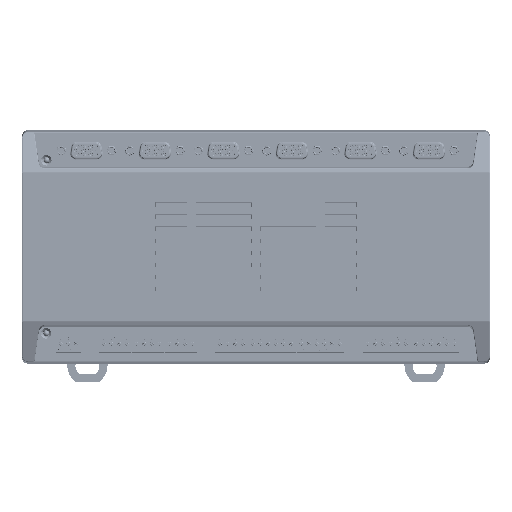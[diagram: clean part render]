
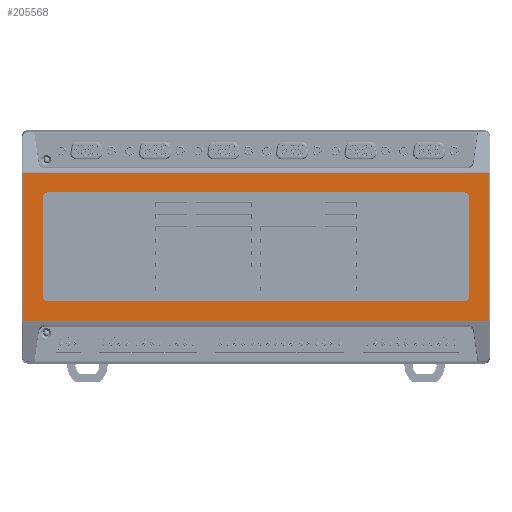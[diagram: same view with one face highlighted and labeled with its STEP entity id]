
A CAD part, top view. The second image highlights one B-rep face of the part: STEP entity #205568.
In plain terms, the highlighted planar face has unit normal (0, 0, 1).
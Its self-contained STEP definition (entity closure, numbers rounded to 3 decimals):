
#3108 = LINE ( 'NONE', #188293, #69001 ) ;
#3305 = CARTESIAN_POINT ( 'NONE',  ( 227.871, 18.173, 17.309 ) ) ;
#7025 = VERTEX_POINT ( 'NONE', #79661 ) ;
#8519 = DIRECTION ( 'NONE',  ( -1., 0., 0. ) ) ;
#11873 = VERTEX_POINT ( 'NONE', #178283 ) ;
#13186 = ORIENTED_EDGE ( 'NONE', *, *, #230875, .T. ) ;
#13925 = PLANE ( 'NONE',  #173700 ) ;
#17149 = AXIS2_PLACEMENT_3D ( 'NONE', #73892, #181973, #87075 ) ;
#19164 = CARTESIAN_POINT ( 'NONE',  ( 215.371, 82., 17.309 ) ) ;
#23455 = DIRECTION ( 'NONE',  ( 1., 0., 0. ) ) ;
#24023 = VERTEX_POINT ( 'NONE', #72348 ) ;
#26346 = CARTESIAN_POINT ( 'NONE',  ( 227.871, 28., 17.309 ) ) ;
#26593 = CARTESIAN_POINT ( 'NONE',  ( -4.279, 18.173, 17.309 ) ) ;
#30573 = CARTESIAN_POINT ( 'NONE',  ( 227.871, 18., 17.309 ) ) ;
#35791 = VERTEX_POINT ( 'NONE', #85214 ) ;
#38985 = CARTESIAN_POINT ( 'NONE',  ( 7.871, 30., 17.309 ) ) ;
#39869 = LINE ( 'NONE', #184725, #92537 ) ;
#40885 = DIRECTION ( 'NONE',  ( 1., 0., 0. ) ) ;
#41255 = EDGE_CURVE ( 'NONE', #62304, #220871, #227743, .T. ) ;
#41432 = CARTESIAN_POINT ( 'NONE',  ( 227.521, 18.173, 17.309 ) ) ;
#47017 = AXIS2_PLACEMENT_3D ( 'NONE', #60832, #133244, #171214 ) ;
#47037 = ORIENTED_EDGE ( 'NONE', *, *, #60469, .F. ) ;
#47159 = VERTEX_POINT ( 'NONE', #101754 ) ;
#53917 = VERTEX_POINT ( 'NONE', #157133 ) ;
#56238 = LINE ( 'NONE', #203391, #87468 ) ;
#60469 = EDGE_CURVE ( 'NONE', #114112, #47159, #56238, .T. ) ;
#60832 = CARTESIAN_POINT ( 'NONE',  ( 215.371, 80., 17.309 ) ) ;
#62304 = VERTEX_POINT ( 'NONE', #161028 ) ;
#63902 = EDGE_CURVE ( 'NONE', #53917, #133532, #81055, .T. ) ;
#69001 = VECTOR ( 'NONE', #202555, 1000. ) ;
#72348 = CARTESIAN_POINT ( 'NONE',  ( 7.871, 82., 17.309 ) ) ;
#73892 = CARTESIAN_POINT ( 'NONE',  ( 7.871, 80., 17.309 ) ) ;
#78835 = CARTESIAN_POINT ( 'NONE',  ( 227.871, 82., 17.309 ) ) ;
#79292 = DIRECTION ( 'NONE',  ( 0., 0., -1. ) ) ;
#79661 = CARTESIAN_POINT ( 'NONE',  ( 5.871, 80., 17.309 ) ) ;
#81055 = CIRCLE ( 'NONE', #130340, 2. ) ;
#81811 = EDGE_LOOP ( 'NONE', ( #175282, #204248, #180236, #108529, #231402, #127128, #83199, #210695 ) ) ;
#83199 = ORIENTED_EDGE ( 'NONE', *, *, #83439, .T. ) ;
#83439 = EDGE_CURVE ( 'NONE', #126819, #7025, #166096, .T. ) ;
#85214 = CARTESIAN_POINT ( 'NONE',  ( 7.871, 28., 17.309 ) ) ;
#87075 = DIRECTION ( 'NONE',  ( 1., 0., 0. ) ) ;
#87468 = VECTOR ( 'NONE', #184406, 1000. ) ;
#91742 = LINE ( 'NONE', #26346, #178443 ) ;
#92537 = VECTOR ( 'NONE', #94482, 1000. ) ;
#94482 = DIRECTION ( 'NONE',  ( 0., -1., 0. ) ) ;
#95806 = VERTEX_POINT ( 'NONE', #19164 ) ;
#95966 = DIRECTION ( 'NONE',  ( 0., -1., 0. ) ) ;
#96946 = EDGE_CURVE ( 'NONE', #62304, #47159, #3108, .T. ) ;
#99395 = EDGE_CURVE ( 'NONE', #24023, #95806, #205869, .T. ) ;
#101754 = CARTESIAN_POINT ( 'NONE',  ( -4.279, 91.827, 17.309 ) ) ;
#102903 = EDGE_CURVE ( 'NONE', #11873, #53917, #39869, .T. ) ;
#103374 = VECTOR ( 'NONE', #40885, 1000. ) ;
#108529 = ORIENTED_EDGE ( 'NONE', *, *, #63902, .T. ) ;
#111574 = VECTOR ( 'NONE', #187396, 1000. ) ;
#114112 = VERTEX_POINT ( 'NONE', #26593 ) ;
#124995 = EDGE_CURVE ( 'NONE', #133532, #35791, #91742, .T. ) ;
#126819 = VERTEX_POINT ( 'NONE', #156365 ) ;
#127128 = ORIENTED_EDGE ( 'NONE', *, *, #162176, .T. ) ;
#130340 = AXIS2_PLACEMENT_3D ( 'NONE', #132160, #218937, #202250 ) ;
#132160 = CARTESIAN_POINT ( 'NONE',  ( 215.371, 30., 17.309 ) ) ;
#133244 = DIRECTION ( 'NONE',  ( 0., 0., -1. ) ) ;
#133532 = VERTEX_POINT ( 'NONE', #165304 ) ;
#139809 = VECTOR ( 'NONE', #95966, 1000. ) ;
#148617 = EDGE_CURVE ( 'NONE', #7025, #24023, #161183, .T. ) ;
#149316 = CIRCLE ( 'NONE', #47017, 2. ) ;
#151704 = DIRECTION ( 'NONE',  ( 1., 0., 0. ) ) ;
#152551 = VECTOR ( 'NONE', #23455, 1000. ) ;
#152917 = CARTESIAN_POINT ( 'NONE',  ( 227.521, 113., 17.309 ) ) ;
#156365 = CARTESIAN_POINT ( 'NONE',  ( 5.871, 30., 17.309 ) ) ;
#157133 = CARTESIAN_POINT ( 'NONE',  ( 217.371, 30., 17.309 ) ) ;
#158760 = FACE_OUTER_BOUND ( 'NONE', #185829, .T. ) ;
#161028 = CARTESIAN_POINT ( 'NONE',  ( 227.521, 91.827, 17.309 ) ) ;
#161183 = CIRCLE ( 'NONE', #17149, 2. ) ;
#162176 = EDGE_CURVE ( 'NONE', #35791, #126819, #201271, .T. ) ;
#165304 = CARTESIAN_POINT ( 'NONE',  ( 215.371, 28., 17.309 ) ) ;
#166096 = LINE ( 'NONE', #167241, #111574 ) ;
#167124 = LINE ( 'NONE', #3305, #152551 ) ;
#167241 = CARTESIAN_POINT ( 'NONE',  ( 5.871, 18., 17.309 ) ) ;
#167875 = ORIENTED_EDGE ( 'NONE', *, *, #41255, .F. ) ;
#171214 = DIRECTION ( 'NONE',  ( 1., 0., 0. ) ) ;
#173700 = AXIS2_PLACEMENT_3D ( 'NONE', #30573, #192042, #190860 ) ;
#174221 = FACE_BOUND ( 'NONE', #81811, .T. ) ;
#175282 = ORIENTED_EDGE ( 'NONE', *, *, #99395, .T. ) ;
#178283 = CARTESIAN_POINT ( 'NONE',  ( 217.371, 80., 17.309 ) ) ;
#178443 = VECTOR ( 'NONE', #8519, 1000. ) ;
#180236 = ORIENTED_EDGE ( 'NONE', *, *, #102903, .T. ) ;
#181973 = DIRECTION ( 'NONE',  ( 0., 0., -1. ) ) ;
#184406 = DIRECTION ( 'NONE',  ( 0., 1., 0. ) ) ;
#184725 = CARTESIAN_POINT ( 'NONE',  ( 217.371, 18., 17.309 ) ) ;
#185829 = EDGE_LOOP ( 'NONE', ( #13186, #167875, #195233, #47037 ) ) ;
#187396 = DIRECTION ( 'NONE',  ( 0., 1., 0. ) ) ;
#188293 = CARTESIAN_POINT ( 'NONE',  ( 227.871, 91.827, 17.309 ) ) ;
#190860 = DIRECTION ( 'NONE',  ( 1., 0., 0. ) ) ;
#192042 = DIRECTION ( 'NONE',  ( 0., 0., 1. ) ) ;
#195233 = ORIENTED_EDGE ( 'NONE', *, *, #96946, .T. ) ;
#201271 = CIRCLE ( 'NONE', #205168, 2. ) ;
#202250 = DIRECTION ( 'NONE',  ( 1., 0., 0. ) ) ;
#202555 = DIRECTION ( 'NONE',  ( -1., 0., 0. ) ) ;
#203391 = CARTESIAN_POINT ( 'NONE',  ( -4.279, -3., 17.309 ) ) ;
#204248 = ORIENTED_EDGE ( 'NONE', *, *, #214605, .T. ) ;
#205168 = AXIS2_PLACEMENT_3D ( 'NONE', #38985, #79292, #151704 ) ;
#205568 = ADVANCED_FACE ( 'NONE', ( #174221, #158760 ), #13925, .T. ) ;
#205869 = LINE ( 'NONE', #78835, #103374 ) ;
#210695 = ORIENTED_EDGE ( 'NONE', *, *, #148617, .T. ) ;
#214605 = EDGE_CURVE ( 'NONE', #95806, #11873, #149316, .T. ) ;
#218937 = DIRECTION ( 'NONE',  ( 0., 0., -1. ) ) ;
#220871 = VERTEX_POINT ( 'NONE', #41432 ) ;
#227743 = LINE ( 'NONE', #152917, #139809 ) ;
#230875 = EDGE_CURVE ( 'NONE', #114112, #220871, #167124, .T. ) ;
#231402 = ORIENTED_EDGE ( 'NONE', *, *, #124995, .T. ) ;
